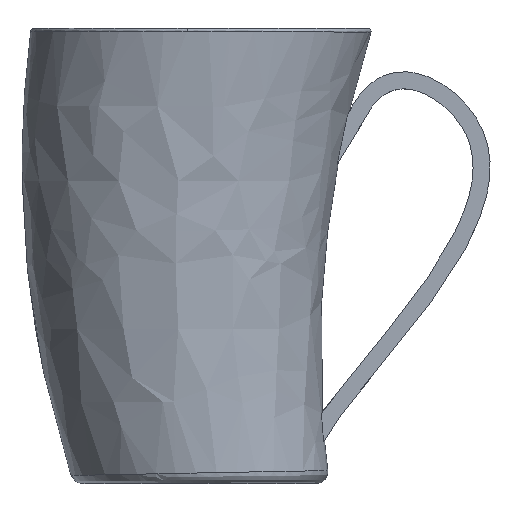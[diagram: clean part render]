
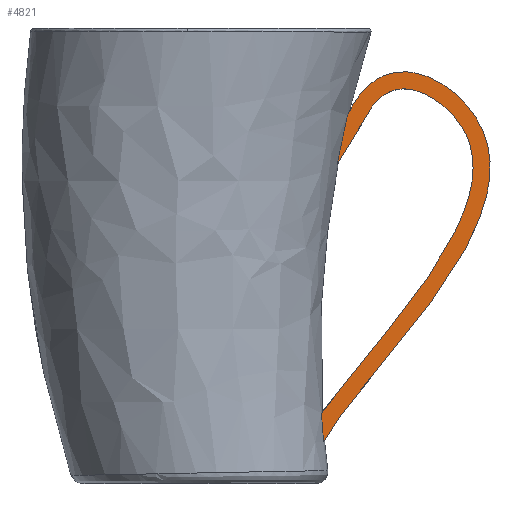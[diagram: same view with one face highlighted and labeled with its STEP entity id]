
A CAD part, top view. The second image highlights one B-rep face of the part: STEP entity #4821.
In plain terms, the highlighted planar face has unit normal (0, 0, 1).
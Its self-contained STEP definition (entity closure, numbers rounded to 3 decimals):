
#32 = DIRECTION ( 'NONE',  ( 0.659, 0.752, 0. ) ) ;
#68 = CARTESIAN_POINT ( 'NONE',  ( 259.282, -147.458, 30. ) ) ;
#92 = CARTESIAN_POINT ( 'NONE',  ( 249.777, -181.324, 30. ) ) ;
#226 = ORIENTED_EDGE ( 'NONE', *, *, #8024, .T. ) ;
#434 = DIRECTION ( 'NONE',  ( 1., 0., 0. ) ) ;
#496 = CARTESIAN_POINT ( 'NONE',  ( 262.356, -609.51, 30. ) ) ;
#538 = CARTESIAN_POINT ( 'NONE',  ( 313.422, -122.265, 30. ) ) ;
#581 = CARTESIAN_POINT ( 'NONE',  ( 464.721, -185.319, 30. ) ) ;
#598 = DIRECTION ( 'NONE',  ( 0., 0., 1. ) ) ;
#612 = CARTESIAN_POINT ( 'NONE',  ( 320.464, -20.798, 30. ) ) ;
#685 = EDGE_CURVE ( 'NONE', #5880, #7450, #7532, .T. ) ;
#758 = ORIENTED_EDGE ( 'NONE', *, *, #6377, .T. ) ;
#1027 = CARTESIAN_POINT ( 'NONE',  ( 726.884, -233.527, 30. ) ) ;
#1115 = CARTESIAN_POINT ( 'NONE',  ( 473.767, -209.222, 30. ) ) ;
#1156 = CARTESIAN_POINT ( 'NONE',  ( 307.604, -128.082, 30. ) ) ;
#1240 = VERTEX_POINT ( 'NONE', #8050 ) ;
#1284 = CARTESIAN_POINT ( 'NONE',  ( 445.018, -155.477, 30. ) ) ;
#1333 = CARTESIAN_POINT ( 'NONE',  ( 211.736, -693.092, 30. ) ) ;
#1380 = CARTESIAN_POINT ( 'NONE',  ( 257.872, -150.057, 30. ) ) ;
#1724 = VERTEX_POINT ( 'NONE', #6304 ) ;
#1809 = CARTESIAN_POINT ( 'NONE',  ( 452.633, -165.244, 30. ) ) ;
#1850 = CARTESIAN_POINT ( 'NONE',  ( 210.682, -676.31, 30. ) ) ;
#1895 = CARTESIAN_POINT ( 'NONE',  ( 478.076, -249.242, 30. ) ) ;
#1938 = CARTESIAN_POINT ( 'NONE',  ( 346.847, -106.37, 30. ) ) ;
#2100 = CARTESIAN_POINT ( 'NONE',  ( 238.289, -239.205, 30. ) ) ;
#2118 = CARTESIAN_POINT ( 'NONE',  ( 256.497, -152.6, 30. ) ) ;
#2300 = B_SPLINE_CURVE_WITH_KNOTS ( 'NONE', 3,
 ( #7943, #8550, #6629, #5320, #5970, #3914, #5275, #5799, #4613, #1156, #538, #2593, #7281, #5146, #1938, #6545, #2548, #2463, #4569, #6459, #1284, #1809, #3824, #581, #8632, #1115, #6503, #1895, #7854, #3206, #6588, #2504, #5841, #8594, #7238, #496, #5882, #7985, #5233, #5190, #3165 ),
 .UNSPECIFIED., .F., .F.,
 ( 4, 1, 1, 1, 1, 1, 1, 1, 1, 1, 1, 1, 1, 1, 1, 1, 1, 1, 1, 1, 1, 1, 1, 1, 1, 1, 1, 1, 1, 1, 1, 1, 1, 1, 1, 1, 1, 1, 4 ),
 ( 0., 0.002, 0.004, 0.008, 0.012, 0.016, 0.023, 0.031, 0.039, 0.047, 0.063, 0.078, 0.094, 0.109, 0.125, 0.156, 0.188, 0.219, 0.25, 0.266, 0.281, 0.297, 0.313, 0.328, 0.344, 0.375, 0.406, 0.438, 0.5, 0.563, 0.625, 0.688, 0.75, 0.813, 0.844, 0.875, 0.906, 0.938, 0.942 ),
 .UNSPECIFIED. ) ;
#2463 = CARTESIAN_POINT ( 'NONE',  ( 396.89, -116.131, 30. ) ) ;
#2504 = CARTESIAN_POINT ( 'NONE',  ( 403.641, -430.493, 30. ) ) ;
#2524 = PLANE ( 'NONE',  #2916 ) ;
#2548 = CARTESIAN_POINT ( 'NONE',  ( 375.809, -107.982, 30. ) ) ;
#2593 = CARTESIAN_POINT ( 'NONE',  ( 320.663, -116.488, 30. ) ) ;
#2757 = CARTESIAN_POINT ( 'NONE',  ( 243.699, -210.191, 30. ) ) ;
#2916 = AXIS2_PLACEMENT_3D ( 'NONE', #5211, #598, #434 ) ;
#2997 = EDGE_CURVE ( 'NONE', #1240, #5880, #3780, .T. ) ;
#3079 = ORIENTED_EDGE ( 'NONE', *, *, #2997, .T. ) ;
#3165 = CARTESIAN_POINT ( 'NONE',  ( 210.682, -676.31, 30. ) ) ;
#3206 = CARTESIAN_POINT ( 'NONE',  ( 462.779, -322.723, 30. ) ) ;
#3252 = CARTESIAN_POINT ( 'NONE',  ( 214.592, -726.632, 30. ) ) ;
#3303 = CARTESIAN_POINT ( 'NONE',  ( 210.682, -676.31, 30. ) ) ;
#3720 = CARTESIAN_POINT ( 'NONE',  ( 286.296, -160.507, 30. ) ) ;
#3780 = B_SPLINE_CURVE_WITH_KNOTS ( 'NONE', 3,
 ( #4398, #5105, #1027, #612, #3827 ),
 .UNSPECIFIED., .F., .F.,
 ( 4, 1, 4 ),
 ( 0., 0.696, 1. ),
 .UNSPECIFIED. ) ;
#3815 = CARTESIAN_POINT ( 'NONE',  ( 276.029, -182.307, 30. ) ) ;
#3824 = CARTESIAN_POINT ( 'NONE',  ( 459.248, -175.274, 30. ) ) ;
#3827 = CARTESIAN_POINT ( 'NONE',  ( 259.282, -147.458, 30. ) ) ;
#3865 = ORIENTED_EDGE ( 'NONE', *, *, #4175, .T. ) ;
#3914 = CARTESIAN_POINT ( 'NONE',  ( 292.501, -148.8, 30. ) ) ;
#4175 = EDGE_CURVE ( 'NONE', #7450, #1724, #8482, .T. ) ;
#4398 = CARTESIAN_POINT ( 'NONE',  ( 216.353, -724.622, 30. ) ) ;
#4473 = CARTESIAN_POINT ( 'NONE',  ( 238.289, -239.205, 30. ) ) ;
#4569 = CARTESIAN_POINT ( 'NONE',  ( 417.722, -129.086, 30. ) ) ;
#4613 = CARTESIAN_POINT ( 'NONE',  ( 303.243, -133.089, 30. ) ) ;
#4748 = CARTESIAN_POINT ( 'NONE',  ( 256.497, -152.6, 30. ) ) ;
#4821 = ADVANCED_FACE ( 'NONE', ( #5124 ), #2524, .T. ) ;
#4839 = ORIENTED_EDGE ( 'NONE', *, *, #4898, .T. ) ;
#4898 = EDGE_CURVE ( 'NONE', #8154, #1240, #8442, .T. ) ;
#5105 = CARTESIAN_POINT ( 'NONE',  ( 272.247, -611.57, 30. ) ) ;
#5124 = FACE_OUTER_BOUND ( 'NONE', #7720, .T. ) ;
#5146 = CARTESIAN_POINT ( 'NONE',  ( 337.951, -108.251, 30. ) ) ;
#5190 = CARTESIAN_POINT ( 'NONE',  ( 211.344, -675.355, 30. ) ) ;
#5211 = CARTESIAN_POINT ( 'NONE',  ( 250.175, -164.347, 30. ) ) ;
#5233 = CARTESIAN_POINT ( 'NONE',  ( 216.6, -667.831, 30. ) ) ;
#5275 = CARTESIAN_POINT ( 'NONE',  ( 295.326, -144.137, 30. ) ) ;
#5320 = CARTESIAN_POINT ( 'NONE',  ( 288.677, -155.735, 30. ) ) ;
#5363 = EDGE_CURVE ( 'NONE', #8196, #8154, #7120, .T. ) ;
#5399 = CARTESIAN_POINT ( 'NONE',  ( 256.497, -152.6, 30. ) ) ;
#5626 = CARTESIAN_POINT ( 'NONE',  ( 259.282, -147.458, 30. ) ) ;
#5799 = CARTESIAN_POINT ( 'NONE',  ( 298.903, -138.784, 30. ) ) ;
#5841 = CARTESIAN_POINT ( 'NONE',  ( 364.429, -484.509, 30. ) ) ;
#5880 = VERTEX_POINT ( 'NONE', #5626 ) ;
#5882 = CARTESIAN_POINT ( 'NONE',  ( 244.083, -631.953, 30. ) ) ;
#5935 = CARTESIAN_POINT ( 'NONE',  ( 214.592, -726.632, 30. ) ) ;
#5962 = CARTESIAN_POINT ( 'NONE',  ( 256.511, -213.565, 30. ) ) ;
#5970 = CARTESIAN_POINT ( 'NONE',  ( 290.404, -152.491, 30. ) ) ;
#6012 = ORIENTED_EDGE ( 'NONE', *, *, #685, .T. ) ;
#6304 = CARTESIAN_POINT ( 'NONE',  ( 238.289, -239.205, 30. ) ) ;
#6377 = EDGE_CURVE ( 'NONE', #1724, #6881, #8572, .T. ) ;
#6459 = CARTESIAN_POINT ( 'NONE',  ( 433.699, -143.048, 30. ) ) ;
#6503 = CARTESIAN_POINT ( 'NONE',  ( 477.263, -226.908, 30. ) ) ;
#6545 = CARTESIAN_POINT ( 'NONE',  ( 359.212, -105.623, 30. ) ) ;
#6588 = CARTESIAN_POINT ( 'NONE',  ( 437.386, -376.077, 30. ) ) ;
#6629 = CARTESIAN_POINT ( 'NONE',  ( 287.313, -158.424, 30. ) ) ;
#6679 = CARTESIAN_POINT ( 'NONE',  ( 213.039, -709.866, 30. ) ) ;
#6881 = VERTEX_POINT ( 'NONE', #3720 ) ;
#7120 = B_SPLINE_CURVE_WITH_KNOTS ( 'NONE', 3,
 ( #3303, #1333, #6679, #5935 ),
 .UNSPECIFIED., .F., .F.,
 ( 4, 4 ),
 ( 0.611, 0.662 ),
 .UNSPECIFIED. ) ;
#7238 = CARTESIAN_POINT ( 'NONE',  ( 288.268, -578.246, 30. ) ) ;
#7281 = CARTESIAN_POINT ( 'NONE',  ( 329.284, -111.548, 30. ) ) ;
#7301 = CARTESIAN_POINT ( 'NONE',  ( 207.317, -734.942, 30. ) ) ;
#7450 = VERTEX_POINT ( 'NONE', #4748 ) ;
#7532 = B_SPLINE_CURVE_WITH_KNOTS ( 'NONE', 2,
 ( #68, #1380, #2118 ),
 .UNSPECIFIED., .F., .F.,
 ( 3, 3 ),
 ( 0.955, 0.961 ),
 .UNSPECIFIED. ) ;
#7720 = EDGE_LOOP ( 'NONE', ( #6012, #3865, #758, #226, #8504, #4839, #3079 ) ) ;
#7854 = CARTESIAN_POINT ( 'NONE',  ( 474.802, -280.636, 30. ) ) ;
#7943 = CARTESIAN_POINT ( 'NONE',  ( 286.296, -160.507, 30. ) ) ;
#7985 = CARTESIAN_POINT ( 'NONE',  ( 227.305, -653.325, 30. ) ) ;
#8024 = EDGE_CURVE ( 'NONE', #6881, #8196, #2300, .T. ) ;
#8050 = CARTESIAN_POINT ( 'NONE',  ( 216.353, -724.622, 30. ) ) ;
#8154 = VERTEX_POINT ( 'NONE', #3252 ) ;
#8196 = VERTEX_POINT ( 'NONE', #1850 ) ;
#8442 = LINE ( 'NONE', #7301, #8512 ) ;
#8482 = B_SPLINE_CURVE_WITH_KNOTS ( 'NONE', 3,
 ( #5399, #92, #2757, #2100 ),
 .UNSPECIFIED., .F., .F.,
 ( 4, 4 ),
 ( 0.084, 0.172 ),
 .UNSPECIFIED. ) ;
#8504 = ORIENTED_EDGE ( 'NONE', *, *, #5363, .T. ) ;
#8512 = VECTOR ( 'NONE', #32, 1000. ) ;
#8550 = CARTESIAN_POINT ( 'NONE',  ( 286.63, -159.814, 30. ) ) ;
#8572 = B_SPLINE_CURVE_WITH_KNOTS ( 'NONE', 3,
 ( #4473, #5962, #3815, #8624 ),
 .UNSPECIFIED., .F., .F.,
 ( 4, 4 ),
 ( 0.058, 0.363 ),
 .UNSPECIFIED. ) ;
#8594 = CARTESIAN_POINT ( 'NONE',  ( 322.7, -536.881, 30. ) ) ;
#8624 = CARTESIAN_POINT ( 'NONE',  ( 286.296, -160.507, 30. ) ) ;
#8632 = CARTESIAN_POINT ( 'NONE',  ( 469.15, -195.475, 30. ) ) ;
